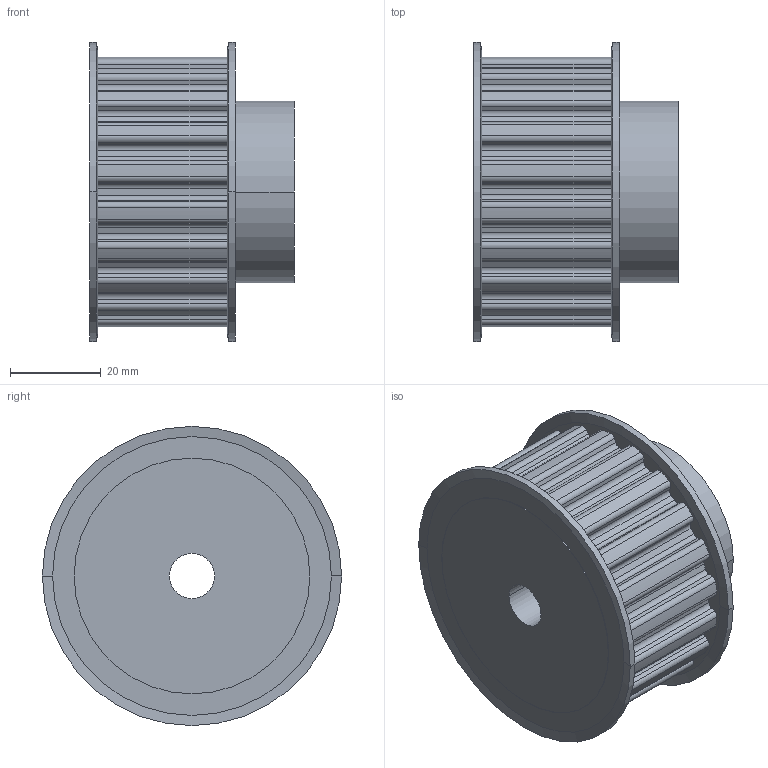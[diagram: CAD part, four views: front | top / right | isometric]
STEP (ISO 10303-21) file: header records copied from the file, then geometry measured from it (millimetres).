
FILE_DESCRIPTION( ( '' ), '1' );
FILE_NAME( 'C:/Users/Stangenbergd/Documents/CAD_Step/1/18232000.stp', '2021-10-19T10:39:40', ( '' ), ( '' ), ' ', ' ', ' ' );
FILE_SCHEMA( ( 'CONFIG_CONTROL_DESIGN' ) );
Length unit declared in the file: millimetre
Products named in the file (1): 1
Bounding box: 45.17 x 66 x 66 mm (x, y, z)
Volume: 98150.7 mm3; surface area: 18939.3 mm2
Topology: 1 solids, 1 shells, 187 faces, 532 edges, 352 vertices
Faces by surface type: cylinder 112, plane 67, cone 8
Entity records: 6222 total; most frequent: DIRECTION 1140, CARTESIAN_POINT 1072, ORIENTED_EDGE 1064, EDGE_CURVE 532, AXIS2_PLACEMENT_3D 420, VERTEX_POINT 352, LINE 300, VECTOR 300
